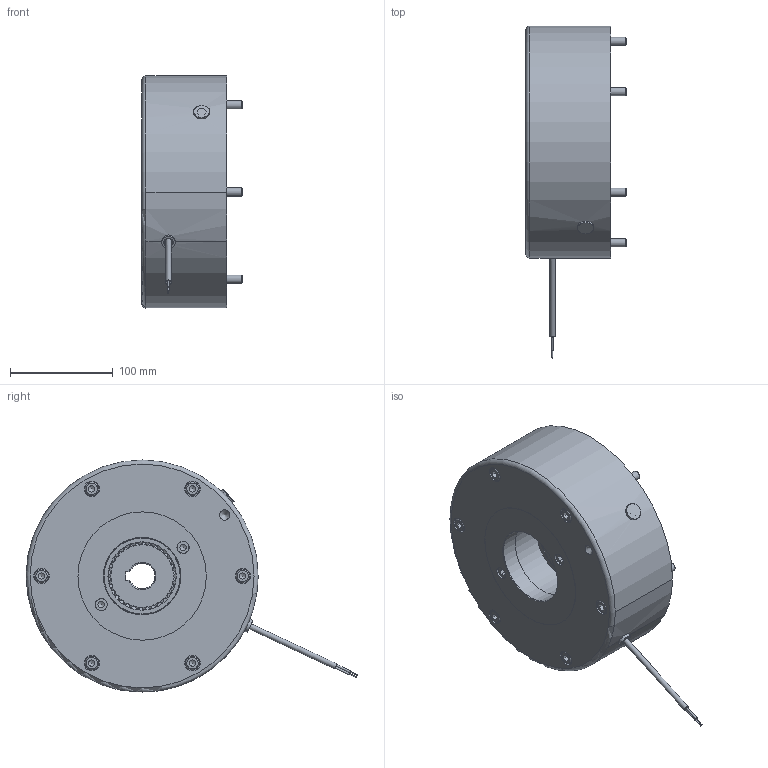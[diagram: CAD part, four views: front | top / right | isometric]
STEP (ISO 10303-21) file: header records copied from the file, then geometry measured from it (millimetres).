
FILE_DESCRIPTION(/* description */ (''),/* implementation_level */ '2;1');
FILE_NAME(/* name */ 'C:\SapWorkDir\Inventor\IP1\ConvertTempPath\5028814_IPT_000.ipt.stp',/* time_stamp */ '2020-09-18T14:46:58+02:00',/* author */ ('STRATE'),/* organization */ (''),/* preprocessor_version */ 'ST-DEVELOPER v17',/* originating_system */ 'Autodesk Inventor 2018',/* authorisation */ '');
FILE_SCHEMA (('AUTOMOTIVE_DESIGN { 1 0 10303 214 3 1 1 }'));
Length unit declared in the file: millimetre
Products named in the file (1): 5028814
Bounding box: 98.4 x 323.12 x 225.94 mm (x, y, z)
Volume: 2822873.9 mm3; surface area: 333145.9 mm2
Topology: 3 solids, 3 shells, 630 faces, 1716 edges, 1168 vertices
Faces by surface type: cylinder 344, plane 154, cone 99, torus 30, bspline 3
Full cylindrical faces by diameter (mm): 0.01 x1, 1 x2, 1.85 x2, 5.3 x1, 6 x1, 7 x1, 7.6 x1, 8 x9, 8.2 x6, 8.3 x3, 8.6 x6, 10 x9, 11 x2, 11.8 x2, 11.835 x2, 12.5 x6, 13 x6, 13.2 x1, 13.9 x6, 15 x6, 16 x3, 75 x1, 77.5 x2, 125 x1, 128.9 x2, 129.4 x2, 174 x1, 210.5 x1, 214 x1, 221.6 x1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
Entity records: 22052 total; most frequent: CARTESIAN_POINT 5079, DIRECTION 3476, ORIENTED_EDGE 3418, EDGE_CURVE 1709, AXIS2_PLACEMENT_3D 1477, VERTEX_POINT 1168, CIRCLE 849, EDGE_LOOP 751
